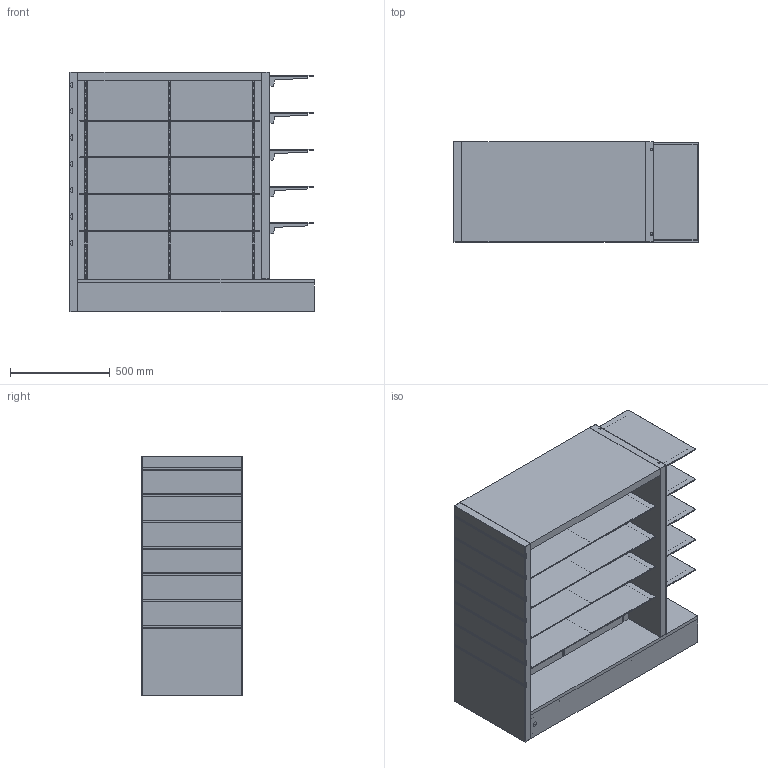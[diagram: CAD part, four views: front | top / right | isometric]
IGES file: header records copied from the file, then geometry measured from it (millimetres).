
Start section: 3D InterOp IGES (v. 2018 1.0.2), Spatial Corp. Copyright (c) 1999-2017.
Global section: file name: Gondole.igs; native system: Spatial Corp.; preprocessor: 3D InterOp GENERIC/IGES 3.0; author: Noname; organization: Noname; date: 20190430.084116; units: millimetre
Bounding box: 1224 x 502 x 1200 mm (x, y, z)
Surface area: 16201590.2 mm2 (no closed solid volume)
Topology: 0 solids, 0 shells, 3980 faces, 20271 edges, 20252 vertices
Faces by surface type: extrusion 2674, revolution 1306
